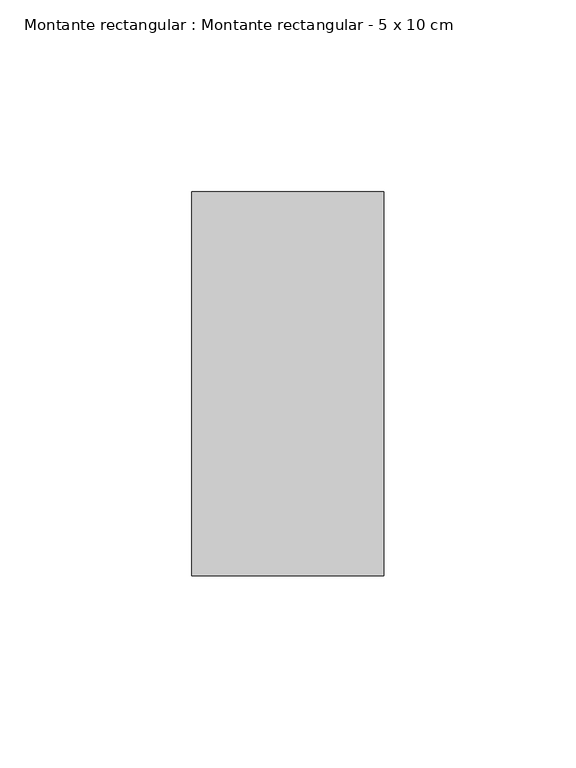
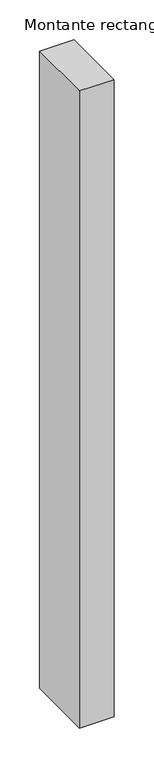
"""IFC4 building model written with IfcOpenShell, lengths in millimetres: member geometry, Montante rectangular : Montante rectangular - 5 x 10 cm."""

from ifc_helpers import new_model, si_unit, frame, origin, place, context, project, spatial, polyline, outline, extrude, source, transform, mapped, element, save


def montante_rectangular_montante_rectangular_5_x_10_cm_e5651242(model_context):
    return source(origin(), model_context, "Body", "SweptSolid", [
        extrude(outline(polyline([(0.0, -50.0), (-50.0, -50.0), (-50.0, 50.0), (0.0, 50.0), (0.0, -50.0)])), frame((0.0, 0.0, -975.0), z_axis=(0.0, 0.0, 1.0), x_axis=(1.0, 0.0, 0.0)), (0.0, 0.0, 1.0), 975.0),
    ])


if __name__ == "__main__":
    model = new_model("IFC4")
    model_context = context("Model", 3, world=origin())
    ifc_project = project(units=[si_unit("LENGTHUNIT", "METRE", prefix="MILLI")], contexts=[model_context])
    site = spatial("IfcSite", under=ifc_project)
    building = spatial("IfcBuilding", under=site)
    placement = place(None, origin())
    montante_rectangular_montante_rectangular_5_x_10_cm_shape = montante_rectangular_montante_rectangular_5_x_10_cm_e5651242(model_context)
    element("IfcMember", 1, ObjectType="Montante rectangular : Montante rectangular - 5 x 10 cm", at=placement, inside=building, context=model_context, shape_type="MappedRepresentation", body=[
        mapped(montante_rectangular_montante_rectangular_5_x_10_cm_shape, transform((0.0, 0.0, 0.0), x_axis=(1.0, 0.0, 0.0), y_axis=(0.0, 1.0, 0.0), z_axis=(0.0, 0.0, 1.0))),
    ])
    save(model, "model.ifc")
